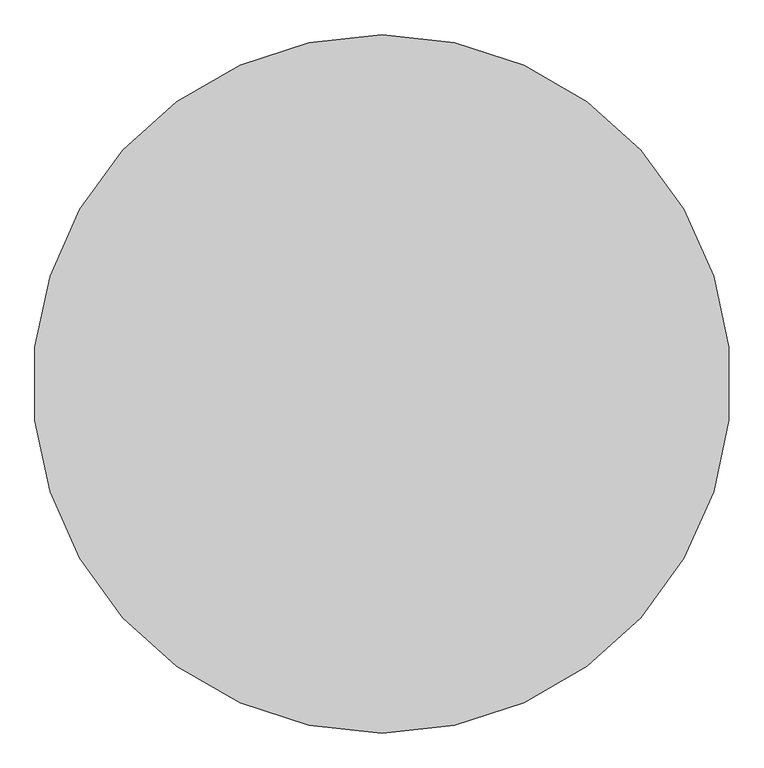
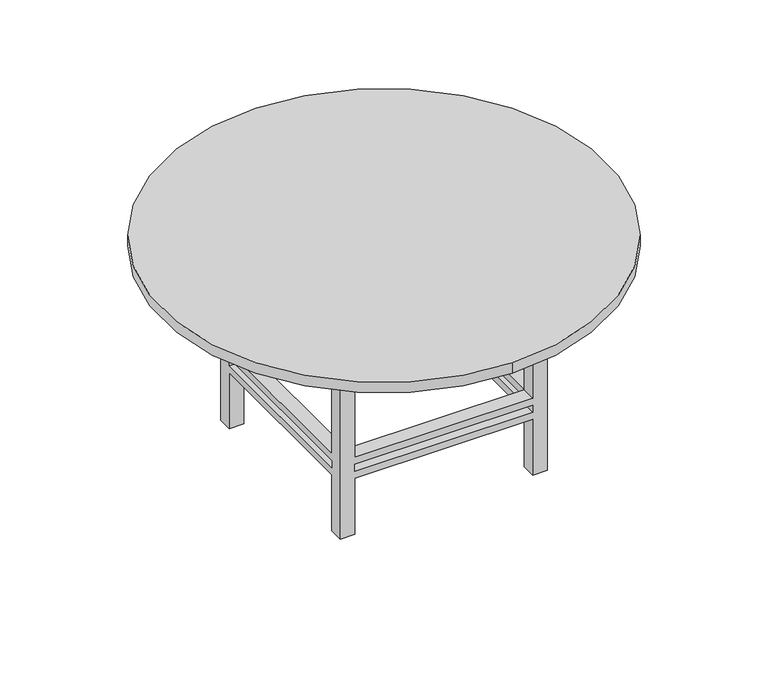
"""IFC4 building model written with IfcOpenShell, lengths in millimetres: furniture geometry, Стол-Обеденный круглый со стульями : Диаметр 1525мм."""

import ifcopenshell
import ifcopenshell.guid

model = None  # the IFC model being written
_history = None  # IfcOwnerHistory: only IFC2X3 demands one
_inside = {}  # id of a spatial element -> (the spatial element, [elements in it])
_under = {}  # id of a project, library or spatial element -> (it, [spatial elements below it])
_declared = {}  # id of a project -> (the project, [libraries it declares])
_typed = {}  # id of a type object -> (the type object, [elements of that type])
_made_of = {}  # id of a material, layer set ... -> (it, [elements and type objects made of it])


def new_model(schema):
    """Start an empty IFC model of exactly this schema.

    Asked for "IFC4X3", IfcOpenShell would pick the latest addendum, in which some entities
    have other attributes; the version numbers below select the first issue.
    IFC2X3 requires an IfcOwnerHistory on every rooted entity: one is made here for all.
    """
    global model, _history
    if schema == "IFC4X3":
        model = ifcopenshell.file(schema_version=(4, 3, 0, 0))
    else:
        model = ifcopenshell.file(schema=schema)
    _inside.clear()
    _under.clear()
    _declared.clear()
    _typed.clear()
    _made_of.clear()
    _history = None
    if model.schema == "IFC2X3":
        org = make("IfcOrganization", Name="unknown")
        user = make(
            "IfcPersonAndOrganization",
            ThePerson=make("IfcPerson", FamilyName="unknown"),
            TheOrganization=org,
        )
        app = make(
            "IfcApplication",
            ApplicationDeveloper=org,
            Version="unknown",
            ApplicationFullName="unknown",
            ApplicationIdentifier="unknown",
        )
        _history = make(
            "IfcOwnerHistory",
            OwningUser=user,
            OwningApplication=app,
            ChangeAction="ADDED",
            CreationDate=0,
        )
    return model


def make(cls, **values):
    """One entity of the class cls with the attributes given. An attribute that is None is left unset."""
    return model.create_entity(
        cls, **{name: value for name, value in values.items() if value is not None}
    )


def rooted(cls, **values):
    """An entity with a GlobalId (a new one), such as an element, a storey or a relation."""
    return make(cls, GlobalId=ifcopenshell.guid.new(), OwnerHistory=_history, **values)


def si_unit(unit_type, name, prefix=None):
    """IfcSIUnit, for example si_unit("LENGTHUNIT", "METRE", prefix="MILLI")."""
    return make("IfcSIUnit", UnitType=unit_type, Prefix=prefix, Name=name)


def assignment(units):
    """IfcUnitAssignment: the units of a project."""
    return None if units is None else make("IfcUnitAssignment", Units=units)


def point(xyz):
    """IfcCartesianPoint."""
    return None if xyz is None else make("IfcCartesianPoint", Coordinates=xyz)


def direction(xyz):
    """IfcDirection."""
    return None if xyz is None else make("IfcDirection", DirectionRatios=xyz)


def frame(location, z_axis=None, x_axis=None):
    """IfcAxis2Placement3D, a coordinate frame: its origin and axes. An axis left out is left unset."""
    return make(
        "IfcAxis2Placement3D",
        Location=point(location),
        Axis=direction(z_axis),
        RefDirection=direction(x_axis),
    )


def frame_2d(location, x_axis=None):
    """IfcAxis2Placement2D, a coordinate frame in the plane: its origin and x axis."""
    return make(
        "IfcAxis2Placement2D", Location=point(location), RefDirection=direction(x_axis)
    )


def origin():
    """The frame at (0, 0, 0) with its axes left unset."""
    return frame((0.0, 0.0, 0.0))


def place(relative_to, where):
    """IfcLocalPlacement: puts the frame where relative to a parent placement (None: the world)."""
    return make(
        "IfcLocalPlacement", PlacementRelTo=relative_to, RelativePlacement=where
    )


def context(
    kind, dimensions, precision=None, world=None, true_north=None, identifier=None
):
    """IfcGeometricRepresentationContext, for example the 3D "Model" context."""
    return make(
        "IfcGeometricRepresentationContext",
        ContextIdentifier=identifier,
        ContextType=kind,
        CoordinateSpaceDimension=dimensions,
        Precision=precision,
        WorldCoordinateSystem=world,
        TrueNorth=true_north,
    )


def project(units=None, contexts=None):
    """IfcProject with its units and contexts."""
    return rooted(
        "IfcProject",
        Name="project",
        RepresentationContexts=contexts,
        UnitsInContext=assignment(units),
    )


def spatial(cls, under=None, at=None, **own):
    """A site, building, storey or space (cls), placed at a placement, below another one or the project."""
    s = rooted(cls, ObjectPlacement=at, **own)
    if under is not None:
        _under.setdefault(under.id(), (under, []))[1].append(s)
    return s


def polyline(points):
    """IfcPolyline through the points."""
    return make("IfcPolyline", Points=[point(p) for p in points])


def circle_curve(where, radius):
    """IfcCircle in the frame where."""
    return make("IfcCircle", Position=where, Radius=radius)


def trimmed(basis, trim1, trim2, sense, master):
    """IfcTrimmedCurve: the piece of a basis curve between two trims."""
    return make(
        "IfcTrimmedCurve",
        BasisCurve=basis,
        Trim1=trim1,
        Trim2=trim2,
        SenseAgreement=sense,
        MasterRepresentation=master,
    )


def segment(curve, same_sense, transition):
    """IfcCompositeCurveSegment."""
    return make(
        "IfcCompositeCurveSegment",
        Transition=transition,
        SameSense=same_sense,
        ParentCurve=curve,
    )


def composite_curve(segments, self_intersect=None):
    """IfcCompositeCurve: segments joined end to end."""
    return make("IfcCompositeCurve", Segments=segments, SelfIntersect=self_intersect)


def outline(outer, holes=None, kind="AREA"):
    """IfcArbitraryClosedProfileDef: a profile drawn as a closed curve; with holes, ...WithVoids."""
    if holes is None:
        return make("IfcArbitraryClosedProfileDef", ProfileType=kind, OuterCurve=outer)
    return make(
        "IfcArbitraryProfileDefWithVoids",
        ProfileType=kind,
        OuterCurve=outer,
        InnerCurves=holes,
    )


def extrude(swept, where, along, depth):
    """IfcExtrudedAreaSolid: the profile swept, set in the frame where, extruded along a direction by depth."""
    return make(
        "IfcExtrudedAreaSolid",
        SweptArea=swept,
        Position=where,
        ExtrudedDirection=direction(along),
        Depth=depth,
    )


def faces_of(points, faces, orient=None, outer=None):
    """IfcFace entities. A face is a list of loops; a loop is a list of indices into points, from 0.

    orient and outer hold one flag for each loop. By default every Orientation is true, the
    first loop of a face is its IfcFaceOuterBound and the others are IfcFaceBound.
    """
    made = []
    for i, loops in enumerate(faces):
        bounds = []
        for j, loop in enumerate(loops):
            is_outer = j == 0 if outer is None else outer[i][j]
            bounds.append(
                make(
                    "IfcFaceOuterBound" if is_outer else "IfcFaceBound",
                    Bound=make("IfcPolyLoop", Polygon=[points[k] for k in loop]),
                    Orientation=True if orient is None else orient[i][j],
                )
            )
        made.append(make("IfcFace", Bounds=bounds))
    return made


def faceted_brep(points, faces, orient=None, outer=None, voids=None):
    """IfcFacetedBrep: a solid bounded by flat faces; with voids (closed shells), ...WithVoids."""
    shared = [point(p) for p in points]
    hull = make("IfcClosedShell", CfsFaces=faces_of(shared, faces, orient, outer))
    if voids is None:
        return make("IfcFacetedBrep", Outer=hull)
    return make(
        "IfcFacetedBrepWithVoids",
        Outer=hull,
        Voids=[
            make(cls, CfsFaces=faces_of(shared, fs, o, b)) for cls, fs, o, b in voids
        ],
    )


def shape(context_of_items, identifier, shape_type, items):
    """IfcShapeRepresentation: the items that make up one representation, for example the "Body"."""
    return make(
        "IfcShapeRepresentation",
        ContextOfItems=context_of_items,
        RepresentationIdentifier=identifier,
        RepresentationType=shape_type,
        Items=items,
    )


def source(mapping_origin, context_of_items, identifier, shape_type, items):
    """IfcRepresentationMap: a shape defined once, which mapped items show again and again."""
    return make(
        "IfcRepresentationMap",
        MappingOrigin=mapping_origin,
        MappedRepresentation=shape(context_of_items, identifier, shape_type, items),
    )


def transform(
    local_origin,
    x_axis=None,
    y_axis=None,
    z_axis=None,
    scale=None,
    scale2=None,
    scale3=None,
    uniform=True,
):
    """IfcCartesianTransformationOperator3D, or its non-uniform kind. x_axis, y_axis, z_axis: its Axis1, 2, 3."""
    if uniform:
        return make(
            "IfcCartesianTransformationOperator3D",
            Axis1=direction(x_axis),
            Axis2=direction(y_axis),
            LocalOrigin=point(local_origin),
            Scale=scale,
            Axis3=direction(z_axis),
        )
    return make(
        "IfcCartesianTransformationOperator3DnonUniform",
        Axis1=direction(x_axis),
        Axis2=direction(y_axis),
        LocalOrigin=point(local_origin),
        Scale=scale,
        Axis3=direction(z_axis),
        Scale2=scale2,
        Scale3=scale3,
    )


def mapped(mapping_source, mapping_target):
    """IfcMappedItem: shows the shape of a source again, moved by a transform."""
    return make(
        "IfcMappedItem", MappingSource=mapping_source, MappingTarget=mapping_target
    )


def made_of(thing, what):
    """Note that an element or type object is made of a material, layer set ...; save() writes the relation."""
    if what is not None:
        _made_of.setdefault(what.id(), (what, []))[1].append(thing)
    return thing


def element(
    cls,
    number,
    at=None,
    inside=None,
    cuts=None,
    type_object=None,
    material=None,
    context=None,
    identifier="Body",
    shape_type=None,
    held_by="IfcProductDefinitionShape",
    body=None,
    shapes=None,
    **own,
):
    """One element of the class cls, such as IfcWall. Its Tag is "e" and its number.

    at: its placement. inside: the storey or other place that contains it. cuts: it is an
    opening in that element (IfcRelVoidsElement). A single representation is given by context,
    identifier, shape_type and body (its items); several are given by shapes. held_by: the class
    of the entity that holds the representations. save() writes the other relations.
    """
    e = rooted(cls, Tag="e%d" % number, ObjectPlacement=at, **own)
    if body is not None:
        shapes = [shape(context, identifier, shape_type, body)]
    if shapes is not None:
        e.Representation = make(held_by, Representations=shapes)
    if inside is not None:
        _inside.setdefault(inside.id(), (inside, []))[1].append(e)
    if cuts is not None:
        rooted(
            "IfcRelVoidsElement", RelatingBuildingElement=cuts, RelatedOpeningElement=e
        )
    if type_object is not None:
        _typed.setdefault(type_object.id(), (type_object, []))[1].append(e)
    return made_of(e, material)


def aggregate(whole, parts):
    """IfcRelAggregates: a whole, such as a stair, and the parts it consists of."""
    return rooted("IfcRelAggregates", RelatingObject=whole, RelatedObjects=parts)


def save(model, path):
    """Write the relations noted so far, then the file.

    IfcRelAggregates (storeys below a building ...), IfcRelContainedInSpatialStructure (elements
    in a storey), IfcRelDefinesByType, IfcRelAssociatesMaterial and IfcRelDeclares: one each for
    every whole, place, type object, material and project.
    """
    for whole, parts in _under.values():
        aggregate(whole, parts)
    for where, things in _inside.values():
        rooted(
            "IfcRelContainedInSpatialStructure",
            RelatedElements=things,
            RelatingStructure=where,
        )
    for kind, things in _typed.values():
        rooted("IfcRelDefinesByType", RelatedObjects=things, RelatingType=kind)
    for what, things in _made_of.values():
        rooted("IfcRelAssociatesMaterial", RelatedObjects=things, RelatingMaterial=what)
    for by, libraries in _declared.values():
        rooted("IfcRelDeclares", RelatingContext=by, RelatedDefinitions=libraries)
    model.write(path)


def furniture_5d7012ae(model_context):
    return source(origin(), model_context, "Body", "SolidModel", [
        faceted_brep([(-201.3680328, -170.9713115, 647.7), (-201.3680328, -120.1713115, 647.7), (-252.1680328, -120.1713115, 647.7), (-252.1680328, -170.9713115, 647.7), (408.7319672, -170.9713115, 647.7), (459.5319672, -170.9713115, 647.7), (459.5319672, -120.1713115, 647.7), (408.7319672, -120.1713115, 647.7), (408.7319672, 540.7286885, 647.7), (408.7319672, 489.9286885, 647.7), (459.5319672, 489.9286885, 647.7), (459.5319672, 540.7286885, 647.7), (-201.3680328, 540.7286885, 647.7), (-252.1680328, 540.7286885, 647.7), (-252.1680328, 489.9286885, 647.7), (-201.3680328, 489.9286885, 647.7), (-201.3680328, -170.9713115, 0.0), (-252.1680328, -170.9713115, 0.0), (-252.1680328, -120.1713115, 0.0), (-201.3680328, -120.1713115, 0.0), (408.7319672, -170.9713115, 0.0), (408.7319672, -120.1713115, 0.0), (459.5319672, -120.1713115, 0.0), (459.5319672, -170.9713115, 0.0), (408.7319672, 540.7286885, 0.0), (459.5319672, 540.7286885, 0.0), (459.5319672, 489.9286885, 0.0), (408.7319672, 489.9286885, 0.0), (-201.3680328, 540.7286885, 0.0), (-201.3680328, 489.9286885, 0.0), (-252.1680328, 489.9286885, 0.0), (-252.1680328, 540.7286885, 0.0), (-201.3680328, -170.9713115, 203.2), (408.7319672, -170.9713115, 203.2), (408.7319672, -170.9713115, 279.4), (-201.3680328, -170.9713115, 279.4), (408.7319672, -170.9713115, 228.6), (-201.3680328, -170.9713115, 228.6), (-201.3680328, -170.9713115, 254.0), (408.7319672, -170.9713115, 254.0), (-252.1680328, -120.1713115, 279.4), (-252.1680328, 489.9286885, 279.4), (-252.1680328, 489.9286885, 203.2), (-252.1680328, -120.1713115, 203.2), (-252.1680328, -120.1713115, 228.6), (-252.1680328, 489.9286885, 228.6), (-252.1680328, 489.9286885, 254.0), (-252.1680328, -120.1713115, 254.0), (-201.3680328, -120.1713115, 254.0), (-201.3680328, -120.1713115, 228.6), (-201.3680328, -120.1713115, 203.2), (-201.3680328, -120.1713115, 279.4), (408.7319672, -120.1713115, 254.0), (408.7319672, -120.1713115, 228.6), (408.7319672, -120.1713115, 203.2), (408.7319672, -120.1713115, 279.4), (459.5319672, -120.1713115, 203.2), (459.5319672, -120.1713115, 254.0), (459.5319672, -120.1713115, 228.6), (459.5319672, -120.1713115, 279.4), (459.5319672, 489.9286885, 203.2), (459.5319672, 489.9286885, 279.4), (459.5319672, 489.9286885, 228.6), (459.5319672, 489.9286885, 254.0), (408.7319672, 540.7286885, 203.2), (-201.3680328, 540.7286885, 203.2), (-201.3680328, 540.7286885, 279.4), (408.7319672, 540.7286885, 279.4), (-201.3680328, 540.7286885, 228.6), (408.7319672, 540.7286885, 228.6), (408.7319672, 540.7286885, 254.0), (-201.3680328, 540.7286885, 254.0), (408.7319672, 489.9286885, 254.0), (408.7319672, 489.9286885, 228.6), (408.7319672, 489.9286885, 203.2), (408.7319672, 489.9286885, 279.4), (-201.3680328, 489.9286885, 254.0), (-201.3680328, 489.9286885, 228.6), (-201.3680328, 489.9286885, 203.2), (-201.3680328, 489.9286885, 279.4)], [[[0, 1, 2, 3]], [[4, 5, 6, 7]], [[8, 9, 10, 11]], [[12, 13, 14, 15]], [[16, 17, 18, 19]], [[20, 21, 22, 23]], [[24, 25, 26, 27]], [[28, 29, 30, 31]], [[3, 17, 16, 32, 33, 20, 23, 5, 4, 34, 35, 0], [36, 37, 38, 39]], [[2, 40, 41, 14, 13, 31, 30, 42, 43, 18, 17, 3], [44, 45, 46, 47]], [[44, 47, 48, 49]], [[18, 43, 50, 19]], [[1, 51, 40, 2]], [[0, 35, 51, 1]], [[19, 50, 32, 16]], [[49, 48, 38, 37]], [[36, 39, 52, 53]], [[20, 33, 54, 21]], [[7, 55, 34, 4]], [[21, 54, 56, 22]], [[53, 52, 57, 58]], [[6, 59, 55, 7]], [[23, 22, 56, 60, 26, 25, 11, 10, 61, 59, 6, 5], [62, 58, 57, 63]], [[25, 24, 64, 65, 28, 31, 13, 12, 66, 67, 8, 11], [68, 69, 70, 71]], [[62, 63, 72, 73]], [[26, 60, 74, 27]], [[9, 75, 61, 10]], [[8, 67, 75, 9]], [[27, 74, 64, 24]], [[73, 72, 70, 69]], [[68, 71, 76, 77]], [[28, 65, 78, 29]], [[15, 79, 66, 12]], [[14, 41, 79, 15]], [[29, 78, 42, 30]], [[77, 76, 46, 45]], [[49, 37, 36, 53]], [[53, 58, 62, 73]], [[73, 69, 68, 77]], [[77, 45, 44, 49]], [[50, 43, 42, 78]], [[54, 33, 32, 50]], [[74, 60, 56, 54]], [[78, 65, 64, 74]], [[73, 74, 54, 53]], [[77, 78, 74, 73]], [[49, 50, 78, 77]], [[53, 54, 50, 49]], [[51, 35, 34, 55]], [[55, 59, 61, 75]], [[75, 67, 66, 79]], [[79, 41, 40, 51]], [[48, 47, 46, 76]], [[52, 39, 38, 48]], [[72, 63, 57, 52]], [[76, 71, 70, 72]], [[75, 72, 52, 55]], [[79, 76, 72, 75]], [[51, 48, 76, 79]], [[55, 52, 48, 51]]]),
        extrude(outline(polyline([(484.9319672, -196.3713115), (-277.5680328, -196.3713115), (-277.5680328, 566.1286885), (484.9319672, 566.1286885), (484.9319672, -196.3713115)]), holes=[polyline([(459.5319672, -170.9713115), (459.5319672, 540.7286885), (-252.1680328, 540.7286885), (-252.1680328, -170.9713115), (459.5319672, -170.9713115)])]), frame((0.0, 0.0, 647.7), z_axis=(0.0, 0.0, 1.0), x_axis=(1.0, 0.0, 0.0)), (0.0, 0.0, 1.0), 76.2),
        extrude(outline(composite_curve([segment(trimmed(circle_curve(frame_2d((103.6819672, 184.8786885)), 762.5), [point((103.6819672, 947.3786885))], [point((103.6819672, -577.6213115))], False, "CARTESIAN"), True, "CONTINUOUS"), segment(trimmed(circle_curve(frame_2d((103.6819672, 184.8786885)), 762.5), [point((103.6819672, -577.6213115))], [point((103.6819672, 947.3786885))], False, "CARTESIAN"), True, "CONTINUOUS")], self_intersect=False)), frame((0.0, 0.0, 723.9), z_axis=(0.0, 0.0, 1.0), x_axis=(1.0, 0.0, 0.0)), (0.0, 0.0, 1.0), 38.1),
    ])


if __name__ == "__main__":
    model = new_model("IFC4")
    model_context = context("Model", 3, world=origin())
    ifc_project = project(units=[si_unit("LENGTHUNIT", "METRE", prefix="MILLI")], contexts=[model_context])
    site = spatial("IfcSite", under=ifc_project)
    building = spatial("IfcBuilding", under=site)
    placement = place(None, origin())
    furniture_shape = furniture_5d7012ae(model_context)
    element("IfcFurniture", 1, ObjectType="Стол-Обеденный круглый со стульями : Диаметр 1525мм", at=placement, inside=building, context=model_context, shape_type="MappedRepresentation", body=[
        mapped(furniture_shape, transform((0.0, 0.0, 0.0), x_axis=(1.0, 0.0, 0.0), y_axis=(0.0, 1.0, 0.0), z_axis=(0.0, 0.0, 1.0))),
    ])
    save(model, "model.ifc")
